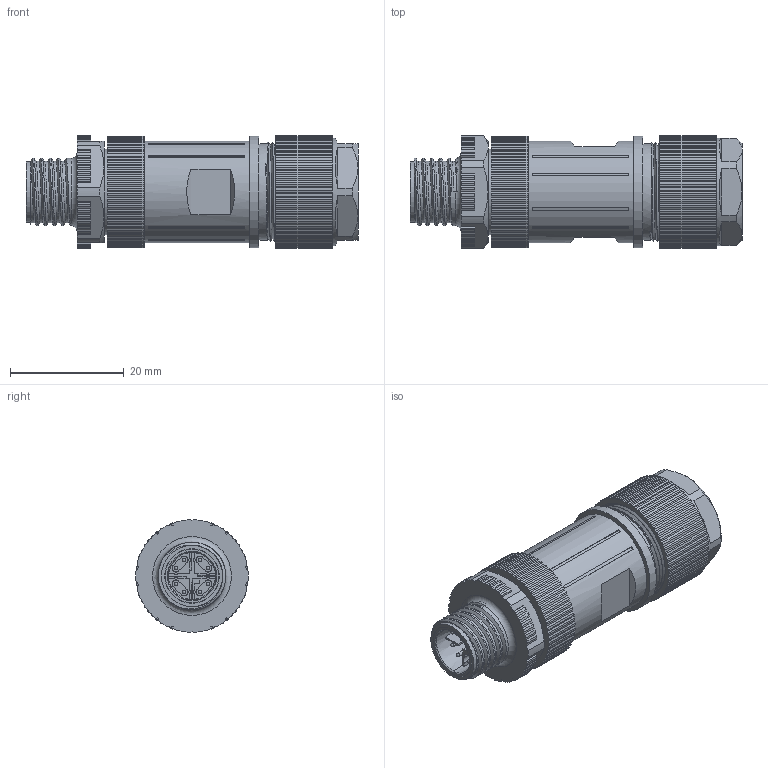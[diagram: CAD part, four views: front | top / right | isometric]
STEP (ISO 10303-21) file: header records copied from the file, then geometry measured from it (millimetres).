
FILE_DESCRIPTION(/* description */ (''),/* implementation_level */ '2;1');
FILE_NAME(/* name */ 'M12组装式X型公头.stp',/* time_stamp */ '2024-12-21T11:38:13+08:00',/* author */ (''),/* organization */ (''),/* preprocessor_version */ 'ST-DEVELOPER v16',/* originating_system */ 'SIEMENS PLM Software NX 10.0',/* authorisation */ '');
FILE_SCHEMA (('AUTOMOTIVE_DESIGN { 1 0 10303 214 3 1 1 1 }'));
Length unit declared in the file: millimetre
Products named in the file (1): M12组装式X型公头
Bounding box: 58.5 x 19.89 x 19.89 mm (x, y, z)
Volume: 11871.8 mm3; surface area: 7270.2 mm2
Topology: 2 solids, 2 shells, 727 faces, 2074 edges, 1376 vertices
Faces by surface type: plane 478, cylinder 189, cone 42, bspline 8, sphere 8, torus 2
Full cylindrical faces by diameter (mm): 0.65 x8, 9.5 x1, 9.6 x1, 10.75 x1, 11 x1, 15 x1, 16.8 x1, 17 x1, 17.9 x1, 18.1 x1, 18.9 x1, 19.6 x1
Entity records: 28779 total; most frequent: CARTESIAN_POINT 9683, ORIENTED_EDGE 4016, DIRECTION 3855, EDGE_CURVE 2008, LINE 1427, VECTOR 1427, VERTEX_POINT 1349, AXIS2_PLACEMENT_3D 1214
